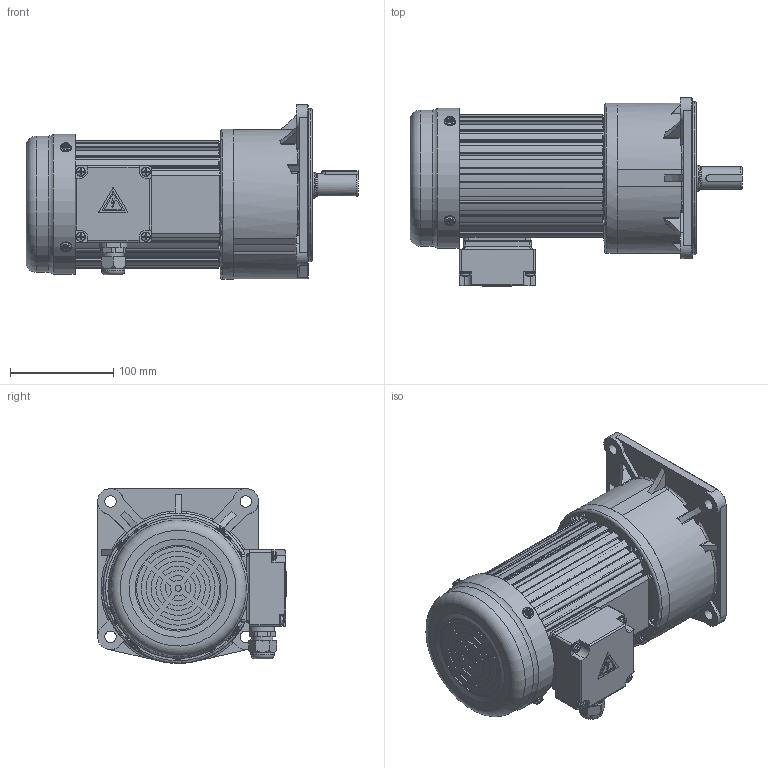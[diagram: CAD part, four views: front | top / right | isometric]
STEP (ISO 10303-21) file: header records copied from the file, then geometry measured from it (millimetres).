
FILE_DESCRIPTION(/* description */ (''),/* implementation_level */ '2;1');
FILE_NAME(/* name */ 'CV22-400-3～200外形多速比.stp',/* time_stamp */ '2025-05-02T08:12:34+08:00',/* author */ (''),/* organization */ (''),/* preprocessor_version */ 'ST-DEVELOPER v18.102',/* originating_system */ 'SIEMENS PLM Software NX 2027',/* authorisation */ '');
FILE_SCHEMA (('AP203_CONFIGURATION_CONTROLLED_3D_DESIGN_OF_MECHANICAL_PARTS_AND_ASSEMBLIES_MIM_LF { 1 0 10303 403 2 1 2}'));
Length unit declared in the file: millimetre
Products named in the file (1): CV22-400-3～200外形多速比_obj
ects
Bounding box: 321.3 x 182.66 x 169.16 mm (x, y, z)
Volume: 3907362.8 mm3; surface area: 335370.6 mm2
Topology: 5 solids, 5 shells, 2047 faces, 5252 edges, 3284 vertices
Faces by surface type: plane 966, cylinder 525, cone 271, bspline 132, torus 128, revolution 16, sphere 9
Full cylindrical faces by diameter (mm): 3 x2, 4.2 x20, 4.336 x3, 4.6 x4, 4.826 x5, 5 x6, 5.795 x5, 6 x5, 6.4 x4, 7 x3, 8.5 x4, 9 x4, 10 x5, 11 x13, 13.98 x1, 14.5 x1, 17 x2, 20 x1, 21 x1, 21.6 x1, 22 x1, 22.5 x1, 25 x1, 40 x1, 50 x1, 56 x1, 65 x1, 110.5 x2, 132 x1, 136 x1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
Entity records: 64484 total; most frequent: CARTESIAN_POINT 17156, ORIENTED_EDGE 9898, DIRECTION 9536, EDGE_CURVE 4949, AXIS2_PLACEMENT_3D 3651, VERTEX_POINT 3209, EDGE_LOOP 2351, LINE 2218
